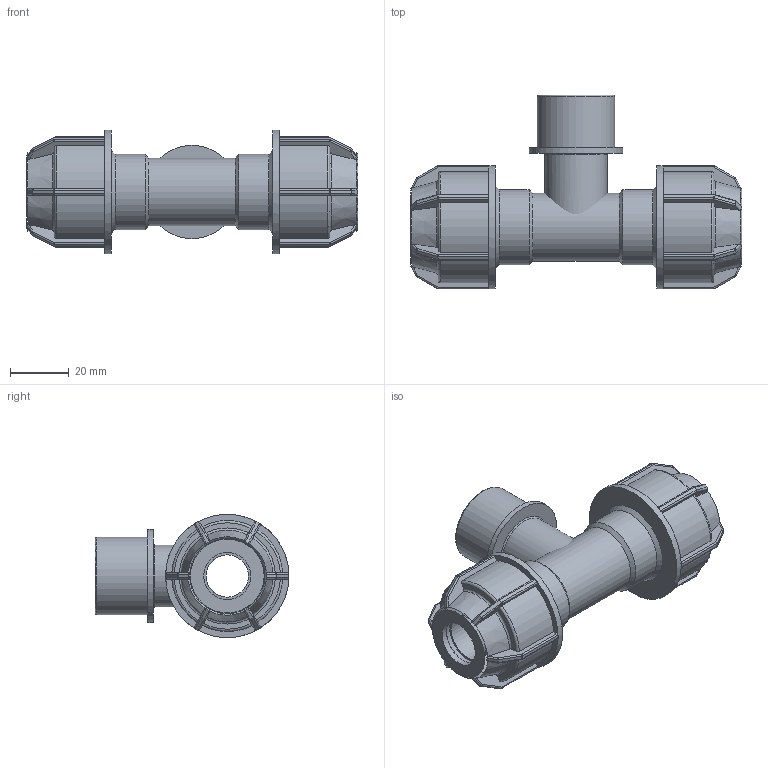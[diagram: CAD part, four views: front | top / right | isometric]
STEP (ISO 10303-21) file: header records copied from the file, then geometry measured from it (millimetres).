
FILE_DESCRIPTION(/* description */ ('PLASSON L.14 TEE MALE ADAPTOR (SILVER) 16-3/4"-16(20)'),/* implementation_level */ '2;1');
FILE_NAME(/* name */ 'C:\Dropbox\KIMPROJECTS-Inventor\99-16-3568-Processing\Silver+MF ISRAEL\148400\148400016007.ipt.stp',/* time_stamp */ '2018-04-09T13:05:18+03:00',/* author */ ('KIM'),/* organization */ (''),/* preprocessor_version */ 'ST-DEVELOPER v15.6',/* originating_system */ 'Autodesk Inventor 2015',/* authorisation */ '');
FILE_SCHEMA (('AUTOMOTIVE_DESIGN { 1 0 10303 214 3 1 1 }'));
Length unit declared in the file: millimetre
Products named in the file (1): 148400016007
Bounding box: 113 x 66 x 42 mm (x, y, z)
Volume: 73934.2 mm3; surface area: 27464 mm2
Topology: 2 solids, 2 shells, 417 faces, 994 edges, 572 vertices
Faces by surface type: plane 197, cylinder 124, sphere 48, torus 30, cone 18
Full cylindrical faces by diameter (mm): 14.4 x3, 16 x4, 21.153 x1, 23.04 x1, 25.6 x2, 26.441 x1, 31.729 x1, 42 x2
Entity records: 12121 total; most frequent: CARTESIAN_POINT 3154, DIRECTION 1886, ORIENTED_EDGE 1836, EDGE_CURVE 918, AXIS2_PLACEMENT_3D 762, VERTEX_POINT 544, EDGE_LOOP 454, FACE_OUTER_BOUND 413
